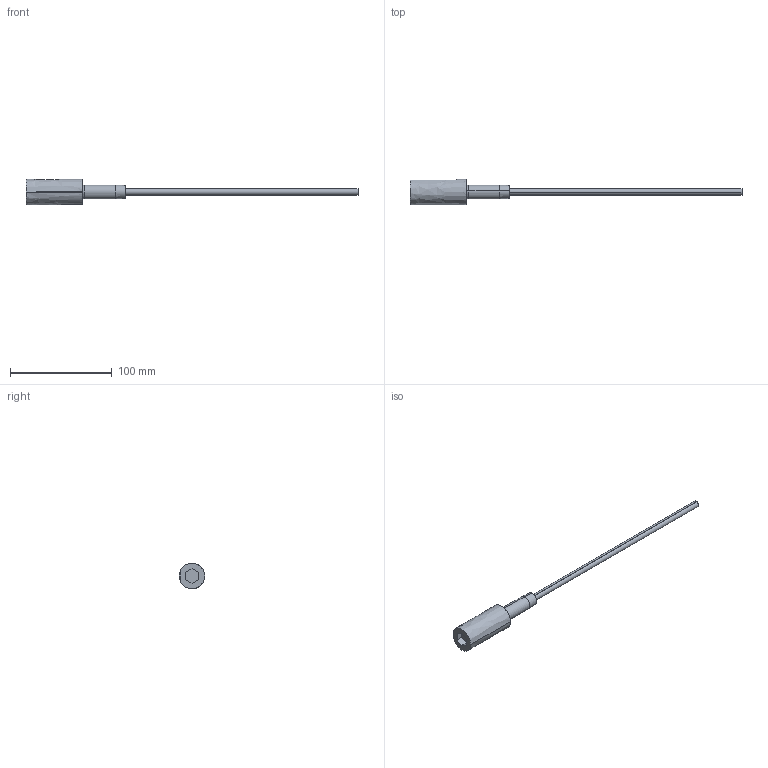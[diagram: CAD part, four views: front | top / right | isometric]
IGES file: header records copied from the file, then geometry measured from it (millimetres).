
Start section: SolidWorks IGES file using analytic representation for surfaces
Global section: file name: C:\Users\365admin\AppData\Local\Temp\InFlowConvert3DWorking\HKC1418.igs; native system: SolidWorks 2019; preprocessor: SolidWorks 2019; author: 365admin; date: 220127.112150; units: inch
Bounding box: 326.82 x 25.02 x 25.02 mm (x, y, z)
Surface area: 22656.1 mm2 (no closed solid volume)
Topology: 0 solids, 0 shells, 64 faces, 1254 edges, 1249 vertices
Faces by surface type: revolution 40, bspline 24
